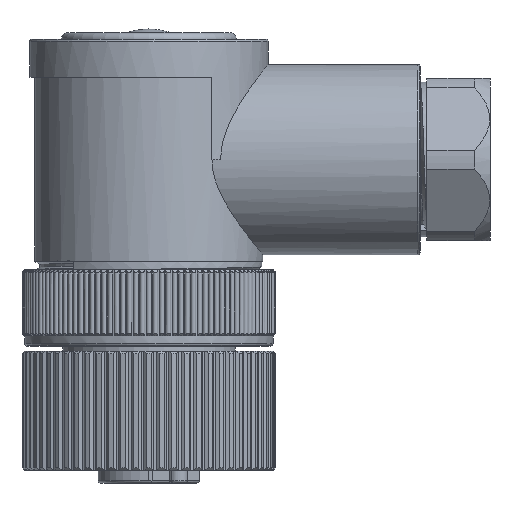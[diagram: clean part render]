
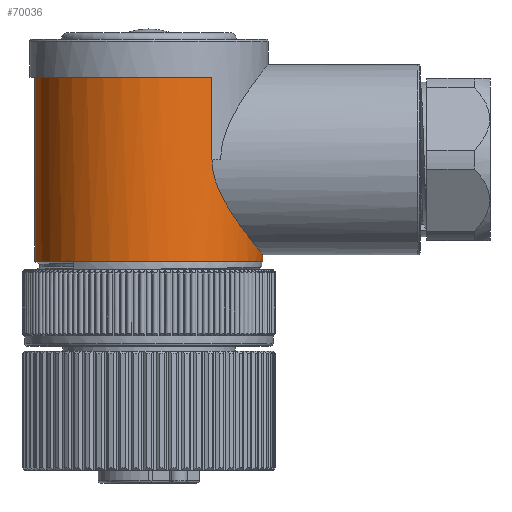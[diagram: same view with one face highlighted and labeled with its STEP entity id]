
A CAD part, front view. The second image highlights one B-rep face of the part: STEP entity #70036.
In plain terms, the highlighted cylindrical face has radius 9 mm (diameter 18 mm), a partial arc.
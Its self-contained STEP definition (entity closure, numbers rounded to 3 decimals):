
#22237=CARTESIAN_POINT('',(0.,0.,4.5));
#22238=DIRECTION('',(0.,0.,-1.));
#22239=DIRECTION('',(1.,0.,0.));
#22240=AXIS2_PLACEMENT_3D('',#22237,#22238,#22239);
#22266=DIRECTION('',(0.,0.,-1.));
#22267=VECTOR('',#22266,0.5);
#22268=CARTESIAN_POINT('',(9.,0.,5.));
#22269=LINE('',#22268,#22267);
#22270=DIRECTION('',(0.,0.,-1.));
#22271=VECTOR('',#22270,14.5);
#22272=CARTESIAN_POINT('',(-9.,0.,19.));
#22273=LINE('',#22272,#22271);
#22274=DIRECTION('',(0.,0.,1.));
#22275=VECTOR('',#22274,6.475);
#22276=CARTESIAN_POINT('',(4.975,-7.5,
12.525));
#22277=LINE('',#22276,#22275);
#22369=CARTESIAN_POINT('',(9.,0.,5.));
#22370=CARTESIAN_POINT('',(9.,-0.048,
5.));
#22371=CARTESIAN_POINT('',(8.999,-0.144,
5.001));
#22372=CARTESIAN_POINT('',(8.996,-0.289,
5.005));
#22373=CARTESIAN_POINT('',(8.99,-0.433,
5.012));
#22374=CARTESIAN_POINT('',(8.982,-0.578,
5.022));
#22375=CARTESIAN_POINT('',(8.971,-0.722,
5.034));
#22376=CARTESIAN_POINT('',(8.959,-0.866,
5.05));
#22377=CARTESIAN_POINT('',(8.943,-1.011,
5.068));
#22378=CARTESIAN_POINT('',(8.926,-1.155,
5.089));
#22379=CARTESIAN_POINT('',(8.906,-1.3,
5.113));
#22380=CARTESIAN_POINT('',(8.884,-1.445,
5.14));
#22381=CARTESIAN_POINT('',(8.859,-1.589,
5.17));
#22382=CARTESIAN_POINT('',(8.832,-1.734,
5.203));
#22383=CARTESIAN_POINT('',(8.802,-1.879,
5.239));
#22384=CARTESIAN_POINT('',(8.77,-2.024,
5.278));
#22385=CARTESIAN_POINT('',(8.735,-2.168,
5.32));
#22386=CARTESIAN_POINT('',(8.698,-2.313,
5.365));
#22387=CARTESIAN_POINT('',(8.658,-2.458,
5.414));
#22388=CARTESIAN_POINT('',(8.616,-2.603,
5.466));
#22389=CARTESIAN_POINT('',(8.571,-2.747,
5.521));
#22390=CARTESIAN_POINT('',(8.523,-2.892,
5.579));
#22391=CARTESIAN_POINT('',(8.473,-3.036,
5.641));
#22392=CARTESIAN_POINT('',(8.42,-3.181,
5.707));
#22393=CARTESIAN_POINT('',(8.364,-3.324,
5.776));
#22394=CARTESIAN_POINT('',(8.305,-3.468,
5.849));
#22395=CARTESIAN_POINT('',(8.244,-3.611,
5.926));
#22396=CARTESIAN_POINT('',(8.18,-3.754,
6.007));
#22397=CARTESIAN_POINT('',(8.113,-3.897,
6.091));
#22398=CARTESIAN_POINT('',(8.044,-4.038,
6.179));
#22399=CARTESIAN_POINT('',(7.971,-4.18,
6.272));
#22400=CARTESIAN_POINT('',(7.896,-4.32,
6.368));
#22401=CARTESIAN_POINT('',(7.818,-4.459,
6.469));
#22402=CARTESIAN_POINT('',(7.738,-4.598,
6.574));
#22403=CARTESIAN_POINT('',(7.654,-4.735,
6.683));
#22404=CARTESIAN_POINT('',(7.569,-4.871,
6.796));
#22405=CARTESIAN_POINT('',(7.481,-5.005,
6.913));
#22406=CARTESIAN_POINT('',(7.39,-5.138,
7.035));
#22407=CARTESIAN_POINT('',(7.298,-5.268,
7.161));
#22408=CARTESIAN_POINT('',(7.203,-5.397,
7.291));
#22409=CARTESIAN_POINT('',(7.106,-5.523,
7.425));
#22410=CARTESIAN_POINT('',(7.009,-5.647,
7.563));
#22411=CARTESIAN_POINT('',(6.909,-5.768,
7.705));
#22412=CARTESIAN_POINT('',(6.809,-5.885,
7.85));
#22413=CARTESIAN_POINT('',(6.709,-6.,
7.998));
#22414=CARTESIAN_POINT('',(6.608,-6.11,
8.15));
#22415=CARTESIAN_POINT('',(6.508,-6.217,
8.303));
#22416=CARTESIAN_POINT('',(6.409,-6.319,
8.459));
#22417=CARTESIAN_POINT('',(6.311,-6.417,
8.616));
#22418=CARTESIAN_POINT('',(6.215,-6.51,
8.775));
#22419=CARTESIAN_POINT('',(6.121,-6.598,
8.933));
#22420=CARTESIAN_POINT('',(6.03,-6.681,
9.091));
#22421=CARTESIAN_POINT('',(5.942,-6.76,
9.249));
#22422=CARTESIAN_POINT('',(5.858,-6.832,
9.405));
#22423=CARTESIAN_POINT('',(5.778,-6.9,
9.56));
#22424=CARTESIAN_POINT('',(5.702,-6.963,
9.713));
#22425=CARTESIAN_POINT('',(5.63,-7.022,
9.863));
#22426=CARTESIAN_POINT('',(5.562,-7.075,
10.011));
#22427=CARTESIAN_POINT('',(5.499,-7.125,
10.156));
#22428=CARTESIAN_POINT('',(5.44,-7.17,
10.298));
#22429=CARTESIAN_POINT('',(5.385,-7.211,
10.437));
#22430=CARTESIAN_POINT('',(5.334,-7.249,
10.574));
#22431=CARTESIAN_POINT('',(5.287,-7.283,
10.708));
#22432=CARTESIAN_POINT('',(5.244,-7.314,
10.84));
#22433=CARTESIAN_POINT('',(5.205,-7.342,
10.969));
#22434=CARTESIAN_POINT('',(5.169,-7.368,
11.095));
#22435=CARTESIAN_POINT('',(5.137,-7.39,
11.22));
#22436=CARTESIAN_POINT('',(5.107,-7.41,
11.343));
#22437=CARTESIAN_POINT('',(5.081,-7.428,
11.463));
#22438=CARTESIAN_POINT('',(5.058,-7.444,
11.583));
#22439=CARTESIAN_POINT('',(5.038,-7.458,
11.7));
#22440=CARTESIAN_POINT('',(5.021,-7.469,
11.817));
#22441=CARTESIAN_POINT('',(5.007,-7.479,
11.932));
#22442=CARTESIAN_POINT('',(4.995,-7.487,
12.047));
#22443=CARTESIAN_POINT('',(4.986,-7.493,
12.161));
#22444=CARTESIAN_POINT('',(4.98,-7.497,
12.274));
#22445=CARTESIAN_POINT('',(4.976,-7.499,
12.387));
#22446=CARTESIAN_POINT('',(4.975,-7.5,
12.462));
#22447=CARTESIAN_POINT('',(4.975,-7.5,
12.5));
#22458=CARTESIAN_POINT('',(4.975,-7.5,
12.5));
#22459=CARTESIAN_POINT('',(4.975,-7.5,
12.504));
#22460=CARTESIAN_POINT('',(4.975,-7.5,
12.512));
#22461=CARTESIAN_POINT('',(4.975,-7.5,
12.521));
#22462=CARTESIAN_POINT('',(4.975,-7.5,
12.525));
#22487=CARTESIAN_POINT('',(0.,0.,19.));
#22488=DIRECTION('',(0.,0.,1.));
#22489=DIRECTION('',(-1.,0.,0.));
#22490=AXIS2_PLACEMENT_3D('',#22487,#22488,#22489);
#46530=CARTESIAN_POINT('',(4.975,-7.5,19.));
#46532=VERTEX_POINT('',#46530);
#46543=CARTESIAN_POINT('',(4.975,-7.5,
12.5));
#46545=VERTEX_POINT('',#46543);
#46807=CARTESIAN_POINT('',(9.,0.,5.));
#46809=VERTEX_POINT('',#46807);
#46814=CARTESIAN_POINT('',(-9.,0.,19.));
#46815=CARTESIAN_POINT('',(-9.,0.,4.5));
#46816=VERTEX_POINT('',#46814);
#46817=VERTEX_POINT('',#46815);
#46818=CARTESIAN_POINT('',(9.,0.,4.5));
#46819=VERTEX_POINT('',#46818);
#46822=CARTESIAN_POINT('',(4.975,-7.5,
12.525));
#46823=VERTEX_POINT('',#46822);
#70016=CARTESIAN_POINT('',(0.,0.,22.));
#70017=DIRECTION('',(0.,0.,-1.));
#70018=DIRECTION('',(-1.,0.,0.));
#70019=AXIS2_PLACEMENT_3D('',#70016,#70017,#70018);
#70020=CYLINDRICAL_SURFACE('',#70019,9.);
#70022=ORIENTED_EDGE('',*,*,#70021,.F.);
#70024=ORIENTED_EDGE('',*,*,#70023,.T.);
#70025=ORIENTED_EDGE('',*,*,#69997,.T.);
#70027=ORIENTED_EDGE('',*,*,#70026,.F.);
#70029=ORIENTED_EDGE('',*,*,#70028,.T.);
#70031=ORIENTED_EDGE('',*,*,#70030,.F.);
#70033=ORIENTED_EDGE('',*,*,#70032,.F.);
#70034=EDGE_LOOP('',(#70022,#70024,#70025,#70027,#70029,#70031,#70033));
#70035=FACE_OUTER_BOUND('',#70034,.F.);
#70036=ADVANCED_FACE('',(#70035),#70020,.T.);
#22241=CIRCLE('',#22240,9.);
#22448=B_SPLINE_CURVE_WITH_KNOTS('',3,(#22369,#22370,#22371,#22372,#22373,
#22374,#22375,#22376,#22377,#22378,#22379,#22380,#22381,#22382,#22383,#22384,
#22385,#22386,#22387,#22388,#22389,#22390,#22391,#22392,#22393,#22394,#22395,
#22396,#22397,#22398,#22399,#22400,#22401,#22402,#22403,#22404,#22405,#22406,
#22407,#22408,#22409,#22410,#22411,#22412,#22413,#22414,#22415,#22416,#22417,
#22418,#22419,#22420,#22421,#22422,#22423,#22424,#22425,#22426,#22427,#22428,
#22429,#22430,#22431,#22432,#22433,#22434,#22435,#22436,#22437,#22438,#22439,
#22440,#22441,#22442,#22443,#22444,#22445,#22446,#22447),.UNSPECIFIED.,.F.,.F.,(
4,1,1,1,1,1,1,1,1,1,1,1,1,1,1,1,1,1,1,1,1,1,1,1,1,1,1,1,1,1,1,1,1,1,1,1,1,1,1,1,
1,1,1,1,1,1,1,1,1,1,1,1,1,1,1,1,1,1,1,1,1,1,1,1,1,1,1,1,1,1,1,1,1,1,1,1,4),
(0.,0.013,0.026,0.039,0.053,
0.066,0.079,0.092,0.105,
0.118,0.132,0.145,0.158,
0.171,0.184,0.197,0.211,
0.224,0.237,0.25,0.263,0.276,
0.289,0.303,0.316,0.329,
0.342,0.355,0.368,0.382,
0.395,0.408,0.421,0.434,
0.447,0.461,0.474,0.487,0.5,
0.513,0.526,0.539,0.553,
0.566,0.579,0.592,0.605,
0.618,0.632,0.645,0.658,
0.671,0.684,0.697,0.711,
0.724,0.737,0.75,0.763,0.776,
0.789,0.803,0.816,0.829,
0.842,0.855,0.868,0.882,
0.895,0.908,0.921,0.934,
0.947,0.961,0.974,0.987,1.),
.UNSPECIFIED.);
#22463=B_SPLINE_CURVE_WITH_KNOTS('',3,(#22458,#22459,#22460,#22461,#22462),
.UNSPECIFIED.,.F.,.F.,(4,1,4),(0.,0.5,1.),.UNSPECIFIED.);
#22491=CIRCLE('',#22490,9.);
#69997=EDGE_CURVE('',#46819,#46817,#22241,.T.);
#70021=EDGE_CURVE('',#46809,#46545,#22448,.T.);
#70023=EDGE_CURVE('',#46809,#46819,#22269,.T.);
#70026=EDGE_CURVE('',#46816,#46817,#22273,.T.);
#70028=EDGE_CURVE('',#46816,#46532,#22491,.T.);
#70030=EDGE_CURVE('',#46823,#46532,#22277,.T.);
#70032=EDGE_CURVE('',#46545,#46823,#22463,.T.);
